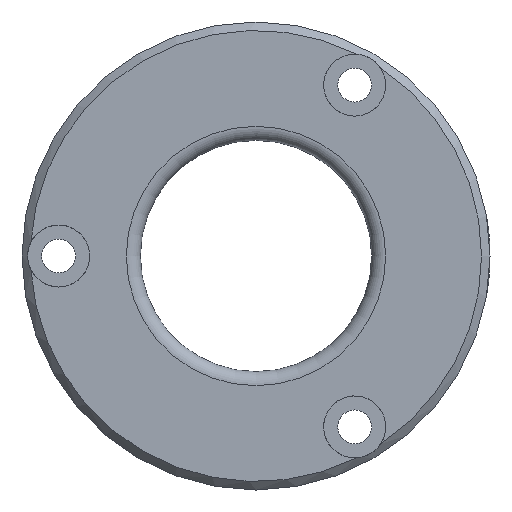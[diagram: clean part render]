
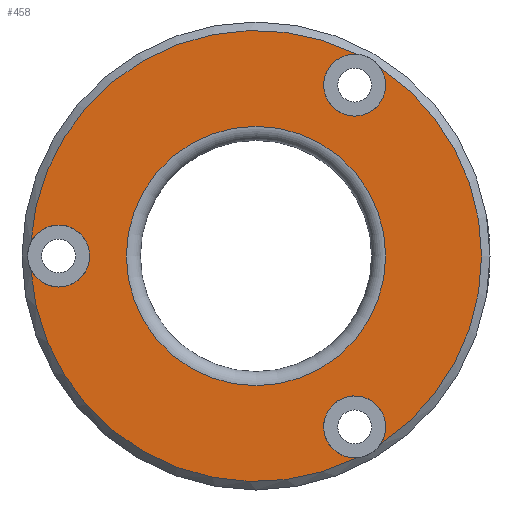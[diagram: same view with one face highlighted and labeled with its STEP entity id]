
A CAD part, left-side view. The second image highlights one B-rep face of the part: STEP entity #458.
In plain terms, the highlighted planar face has unit normal (-1, 0, 0).
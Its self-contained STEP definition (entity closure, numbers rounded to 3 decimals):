
#17=FACE_BOUND('',#114,.T.);
#26=PLANE('',#511);
#39=CIRCLE('',#504,23.);
#45=CIRCLE('',#512,40.);
#46=CIRCLE('',#513,5.5);
#47=CIRCLE('',#514,5.5);
#48=CIRCLE('',#515,40.);
#49=CIRCLE('',#516,5.5);
#50=CIRCLE('',#517,5.5);
#51=CIRCLE('',#518,40.);
#52=CIRCLE('',#519,5.5);
#53=CIRCLE('',#520,5.5);
#89=FACE_OUTER_BOUND('',#113,.T.);
#113=EDGE_LOOP('',(#334,#335,#336,#337,#338,#339,#340,#341,#342));
#114=EDGE_LOOP('',(#343));
#197=VERTEX_POINT('',#912);
#202=VERTEX_POINT('',#927);
#203=VERTEX_POINT('',#928);
#204=VERTEX_POINT('',#930);
#205=VERTEX_POINT('',#932);
#206=VERTEX_POINT('',#934);
#207=VERTEX_POINT('',#936);
#208=VERTEX_POINT('',#938);
#209=VERTEX_POINT('',#940);
#210=VERTEX_POINT('',#942);
#244=EDGE_CURVE('',#197,#197,#39,.T.);
#252=EDGE_CURVE('',#202,#203,#45,.T.);
#253=EDGE_CURVE('',#202,#204,#46,.T.);
#254=EDGE_CURVE('',#204,#205,#47,.T.);
#255=EDGE_CURVE('',#206,#205,#48,.T.);
#256=EDGE_CURVE('',#206,#207,#49,.T.);
#257=EDGE_CURVE('',#207,#208,#50,.T.);
#258=EDGE_CURVE('',#209,#208,#51,.T.);
#259=EDGE_CURVE('',#209,#210,#52,.T.);
#260=EDGE_CURVE('',#210,#203,#53,.T.);
#334=ORIENTED_EDGE('',*,*,#252,.F.);
#335=ORIENTED_EDGE('',*,*,#253,.T.);
#336=ORIENTED_EDGE('',*,*,#254,.T.);
#337=ORIENTED_EDGE('',*,*,#255,.F.);
#338=ORIENTED_EDGE('',*,*,#256,.T.);
#339=ORIENTED_EDGE('',*,*,#257,.T.);
#340=ORIENTED_EDGE('',*,*,#258,.F.);
#341=ORIENTED_EDGE('',*,*,#259,.T.);
#342=ORIENTED_EDGE('',*,*,#260,.T.);
#343=ORIENTED_EDGE('',*,*,#244,.F.);
#458=ADVANCED_FACE('',(#89,#17),#26,.T.);
#504=AXIS2_PLACEMENT_3D('',#913,#578,#579);
#511=AXIS2_PLACEMENT_3D('',#926,#594,#595);
#512=AXIS2_PLACEMENT_3D('',#929,#596,#597);
#513=AXIS2_PLACEMENT_3D('',#931,#598,#599);
#514=AXIS2_PLACEMENT_3D('',#933,#600,#601);
#515=AXIS2_PLACEMENT_3D('',#935,#602,#603);
#516=AXIS2_PLACEMENT_3D('',#937,#604,#605);
#517=AXIS2_PLACEMENT_3D('',#939,#606,#607);
#518=AXIS2_PLACEMENT_3D('',#941,#608,#609);
#519=AXIS2_PLACEMENT_3D('',#943,#610,#611);
#520=AXIS2_PLACEMENT_3D('',#944,#612,#613);
#578=DIRECTION('center_axis',(-1.,0.,0.));
#579=DIRECTION('ref_axis',(0.,-1.,0.));
#594=DIRECTION('center_axis',(-1.,0.,0.));
#595=DIRECTION('ref_axis',(0.,0.,1.));
#596=DIRECTION('center_axis',(1.,0.,0.));
#597=DIRECTION('ref_axis',(0.,-1.,0.));
#598=DIRECTION('center_axis',(1.,0.,0.));
#599=DIRECTION('ref_axis',(0.,0.,1.));
#600=DIRECTION('center_axis',(1.,0.,0.));
#601=DIRECTION('ref_axis',(0.,0.,1.));
#602=DIRECTION('center_axis',(1.,0.,0.));
#603=DIRECTION('ref_axis',(0.,-1.,0.));
#604=DIRECTION('center_axis',(1.,0.,0.));
#605=DIRECTION('ref_axis',(0.,0.,1.));
#606=DIRECTION('center_axis',(1.,0.,0.));
#607=DIRECTION('ref_axis',(0.,0.,1.));
#608=DIRECTION('center_axis',(1.,0.,0.));
#609=DIRECTION('ref_axis',(0.,-1.,0.));
#610=DIRECTION('center_axis',(1.,0.,0.));
#611=DIRECTION('ref_axis',(0.,0.,1.));
#612=DIRECTION('center_axis',(1.,0.,0.));
#613=DIRECTION('ref_axis',(0.,0.,1.));
#912=CARTESIAN_POINT('',(0.,0.,23.));
#913=CARTESIAN_POINT('Origin',(0.,0.,0.));
#926=CARTESIAN_POINT('Origin',(0.,41.5,0.));
#927=CARTESIAN_POINT('',(0.,-22.083,33.352));
#928=CARTESIAN_POINT('',(0.,-22.083,-33.352));
#929=CARTESIAN_POINT('Origin',(0.,0.,0.));
#930=CARTESIAN_POINT('',(0.,-17.5,24.811));
#931=CARTESIAN_POINT('Origin',(0.,-17.5,30.311));
#932=CARTESIAN_POINT('',(0.,-17.842,35.8));
#933=CARTESIAN_POINT('Origin',(0.,-17.5,30.311));
#934=CARTESIAN_POINT('',(0.,39.925,2.448));
#935=CARTESIAN_POINT('Origin',(0.,0.,0.));
#936=CARTESIAN_POINT('',(0.,35.,-5.5));
#937=CARTESIAN_POINT('Origin',(0.,35.,0.));
#938=CARTESIAN_POINT('',(0.,39.925,-2.448));
#939=CARTESIAN_POINT('Origin',(0.,35.,0.));
#940=CARTESIAN_POINT('',(0.,-17.842,-35.8));
#941=CARTESIAN_POINT('Origin',(0.,0.,0.));
#942=CARTESIAN_POINT('',(0.,-17.5,-35.811));
#943=CARTESIAN_POINT('Origin',(0.,-17.5,-30.311));
#944=CARTESIAN_POINT('Origin',(0.,-17.5,-30.311));
